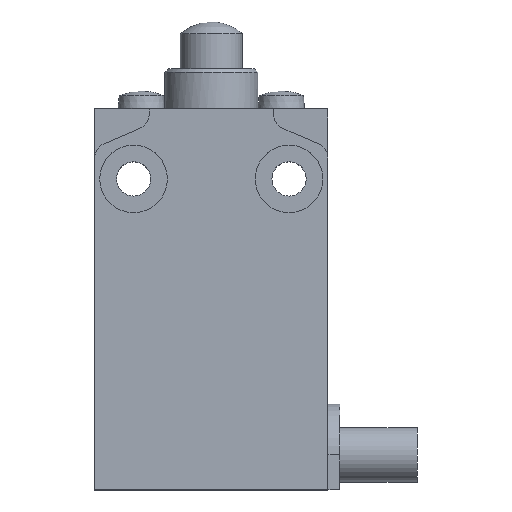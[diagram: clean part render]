
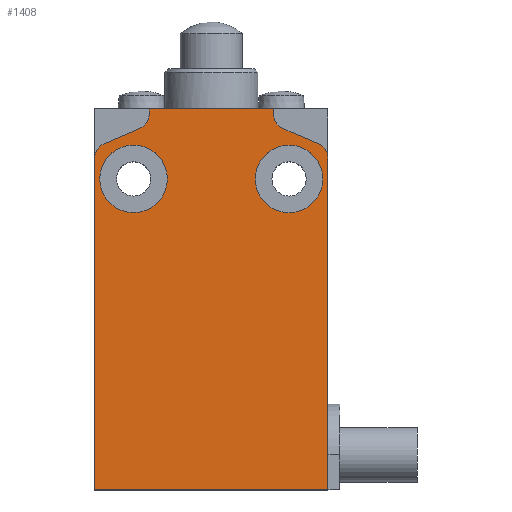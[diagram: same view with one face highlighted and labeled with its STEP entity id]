
A CAD part, top view. The second image highlights one B-rep face of the part: STEP entity #1408.
In plain terms, the highlighted planar face has unit normal (0, 0, 1) as drawn and (0, -1, 0) by its records, which use the part's own axes.
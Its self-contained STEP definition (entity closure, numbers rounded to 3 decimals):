
#118=LINE('',#2247,#220);
#145=LINE('',#2334,#247);
#146=LINE('',#2338,#248);
#147=LINE('',#2340,#249);
#148=LINE('',#2342,#250);
#149=LINE('',#2346,#251);
#150=LINE('',#2350,#252);
#151=LINE('',#2351,#253);
#220=VECTOR('',#1816,42.681);
#247=VECTOR('',#1909,4.978);
#248=VECTOR('',#1912,0.681);
#249=VECTOR('',#1913,16.);
#250=VECTOR('',#1914,0.681);
#251=VECTOR('',#1917,4.978);
#252=VECTOR('',#1920,42.681);
#253=VECTOR('',#1921,30.);
#317=PLANE('',#1560);
#390=FACE_BOUND('',#563,.T.);
#391=FACE_BOUND('',#564,.T.);
#457=FACE_OUTER_BOUND('',#562,.T.);
#562=EDGE_LOOP('',(#1202,#1203,#1204,#1205,#1206,#1207,#1208,#1209,#1210,
#1211,#1212,#1213));
#563=EDGE_LOOP('',(#1214));
#564=EDGE_LOOP('',(#1215));
#633=CIRCLE('',#1516,4.35);
#637=CIRCLE('',#1522,4.35);
#653=CIRCLE('',#1558,2.);
#655=CIRCLE('',#1561,2.);
#656=CIRCLE('',#1562,2.);
#657=CIRCLE('',#1563,2.);
#715=VERTEX_POINT('',#2201);
#719=VERTEX_POINT('',#2211);
#735=VERTEX_POINT('',#2244);
#736=VERTEX_POINT('',#2246);
#761=VERTEX_POINT('',#2327);
#763=VERTEX_POINT('',#2333);
#764=VERTEX_POINT('',#2335);
#765=VERTEX_POINT('',#2337);
#766=VERTEX_POINT('',#2339);
#767=VERTEX_POINT('',#2341);
#768=VERTEX_POINT('',#2343);
#769=VERTEX_POINT('',#2345);
#770=VERTEX_POINT('',#2347);
#771=VERTEX_POINT('',#2349);
#863=EDGE_CURVE('',#715,#715,#633,.T.);
#867=EDGE_CURVE('',#719,#719,#637,.T.);
#883=EDGE_CURVE('',#735,#736,#118,.T.);
#921=EDGE_CURVE('',#761,#735,#653,.T.);
#924=EDGE_CURVE('',#761,#763,#145,.T.);
#925=EDGE_CURVE('',#764,#763,#655,.T.);
#926=EDGE_CURVE('',#764,#765,#146,.T.);
#927=EDGE_CURVE('',#766,#765,#147,.T.);
#928=EDGE_CURVE('',#766,#767,#148,.T.);
#929=EDGE_CURVE('',#768,#767,#656,.T.);
#930=EDGE_CURVE('',#768,#769,#149,.T.);
#931=EDGE_CURVE('',#770,#769,#657,.T.);
#932=EDGE_CURVE('',#771,#770,#150,.T.);
#933=EDGE_CURVE('',#736,#771,#151,.T.);
#1202=ORIENTED_EDGE('',*,*,#921,.F.);
#1203=ORIENTED_EDGE('',*,*,#924,.T.);
#1204=ORIENTED_EDGE('',*,*,#925,.F.);
#1205=ORIENTED_EDGE('',*,*,#926,.T.);
#1206=ORIENTED_EDGE('',*,*,#927,.F.);
#1207=ORIENTED_EDGE('',*,*,#928,.T.);
#1208=ORIENTED_EDGE('',*,*,#929,.F.);
#1209=ORIENTED_EDGE('',*,*,#930,.T.);
#1210=ORIENTED_EDGE('',*,*,#931,.F.);
#1211=ORIENTED_EDGE('',*,*,#932,.F.);
#1212=ORIENTED_EDGE('',*,*,#933,.F.);
#1213=ORIENTED_EDGE('',*,*,#883,.F.);
#1214=ORIENTED_EDGE('',*,*,#867,.T.);
#1215=ORIENTED_EDGE('',*,*,#863,.T.);
#1408=ADVANCED_FACE('',(#457,#390,#391),#317,.T.);
#1516=AXIS2_PLACEMENT_3D('',#2202,#1780,#1781);
#1522=AXIS2_PLACEMENT_3D('',#2212,#1792,#1793);
#1558=AXIS2_PLACEMENT_3D('',#2328,#1902,#1903);
#1560=AXIS2_PLACEMENT_3D('',#2332,#1907,#1908);
#1561=AXIS2_PLACEMENT_3D('',#2336,#1910,#1911);
#1562=AXIS2_PLACEMENT_3D('',#2344,#1915,#1916);
#1563=AXIS2_PLACEMENT_3D('',#2348,#1918,#1919);
#1780=DIRECTION('center_axis',(0.,1.,0.));
#1781=DIRECTION('ref_axis',(-1.,0.,0.));
#1792=DIRECTION('center_axis',(0.,1.,0.));
#1793=DIRECTION('ref_axis',(1.,0.,0.));
#1816=DIRECTION('',(0.,0.,-1.));
#1902=DIRECTION('center_axis',(0.,1.,0.));
#1903=DIRECTION('ref_axis',(0.835,0.,0.55));
#1907=DIRECTION('center_axis',(0.,-1.,0.));
#1908=DIRECTION('ref_axis',(1.,0.,0.));
#1909=DIRECTION('',(-0.919,0.,0.394));
#1910=DIRECTION('center_axis',(0.,-1.,0.));
#1911=DIRECTION('ref_axis',(-0.835,0.,-0.55));
#1912=DIRECTION('',(0.,0.,1.));
#1913=DIRECTION('',(1.,0.,0.));
#1914=DIRECTION('',(0.,0.,-1.));
#1915=DIRECTION('center_axis',(0.,-1.,0.));
#1916=DIRECTION('ref_axis',(0.835,0.,-0.55));
#1917=DIRECTION('',(-0.919,0.,-0.394));
#1918=DIRECTION('center_axis',(0.,1.,0.));
#1919=DIRECTION('ref_axis',(-0.835,0.,0.55));
#1920=DIRECTION('',(0.,0.,1.));
#1921=DIRECTION('',(-1.,0.,0.));
#2201=CARTESIAN_POINT('',(-5.65,-16.,0.));
#2202=CARTESIAN_POINT('Origin',(-10.,-16.,0.));
#2211=CARTESIAN_POINT('',(5.65,-16.,0.));
#2212=CARTESIAN_POINT('Origin',(10.,-16.,0.));
#2244=CARTESIAN_POINT('',(15.,-16.,2.681));
#2246=CARTESIAN_POINT('',(15.,-16.,-40.));
#2247=CARTESIAN_POINT('',(15.,-16.,2.681));
#2327=CARTESIAN_POINT('',(13.788,-16.,4.519));
#2328=CARTESIAN_POINT('Origin',(13.,-16.,2.681));
#2332=CARTESIAN_POINT('Origin',(0.,-16.,-15.5));
#2333=CARTESIAN_POINT('',(9.212,-16.,6.481));
#2334=CARTESIAN_POINT('',(13.788,-16.,4.519));
#2335=CARTESIAN_POINT('',(8.,-16.,8.319));
#2336=CARTESIAN_POINT('Origin',(10.,-16.,8.319));
#2337=CARTESIAN_POINT('',(8.,-16.,9.));
#2338=CARTESIAN_POINT('',(8.,-16.,8.319));
#2339=CARTESIAN_POINT('',(-8.,-16.,9.));
#2340=CARTESIAN_POINT('',(-8.,-16.,9.));
#2341=CARTESIAN_POINT('',(-8.,-16.,8.319));
#2342=CARTESIAN_POINT('',(-8.,-16.,9.));
#2343=CARTESIAN_POINT('',(-9.212,-16.,6.481));
#2344=CARTESIAN_POINT('Origin',(-10.,-16.,8.319));
#2345=CARTESIAN_POINT('',(-13.788,-16.,4.519));
#2346=CARTESIAN_POINT('',(-9.212,-16.,6.481));
#2347=CARTESIAN_POINT('',(-15.,-16.,2.681));
#2348=CARTESIAN_POINT('Origin',(-13.,-16.,2.681));
#2349=CARTESIAN_POINT('',(-15.,-16.,-40.));
#2350=CARTESIAN_POINT('',(-15.,-16.,-40.));
#2351=CARTESIAN_POINT('',(15.,-16.,-40.));
